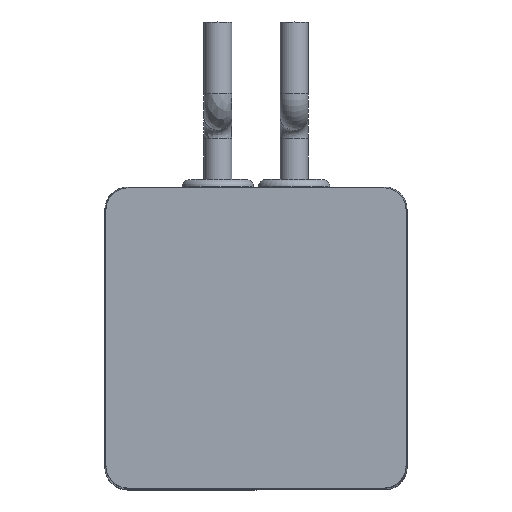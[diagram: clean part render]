
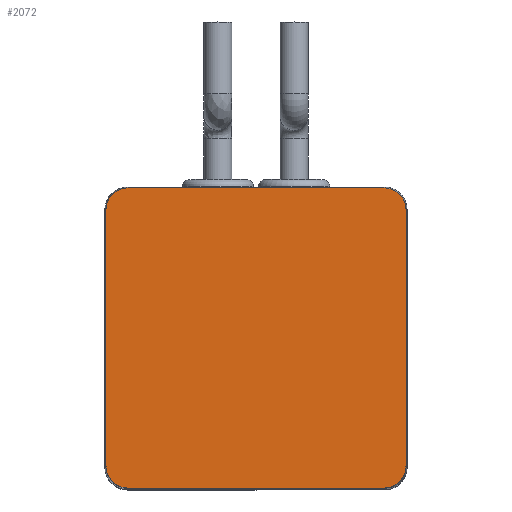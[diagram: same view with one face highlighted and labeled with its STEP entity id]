
A CAD part, top view. The second image highlights one B-rep face of the part: STEP entity #2072.
In plain terms, the highlighted planar face has unit normal (0, 0, 1).
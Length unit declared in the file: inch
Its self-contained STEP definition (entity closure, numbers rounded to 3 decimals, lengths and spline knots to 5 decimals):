
#1228=CARTESIAN_POINT('',(-0.425,1.675,6.195));
#1229=VERTEX_POINT('',#1228);
#1354=CARTESIAN_POINT('',(0.425,1.675,6.195));
#1355=VERTEX_POINT('',#1354);
#1356=CARTESIAN_POINT('',(-0.425,1.675,6.195));
#1357=DIRECTION('',(1.0,0.0,0.0));
#1358=VECTOR('',#1357,0.85);
#1359=LINE('',#1356,#1358);
#1360=EDGE_CURVE('',#1229,#1355,#1359,.T.);
#1554=CARTESIAN_POINT('',(-1.425,1.675,6.195));
#1555=VERTEX_POINT('',#1554);
#1562=CARTESIAN_POINT('',(-1.425,1.675,6.195));
#1563=DIRECTION('',(1.0,0.0,0.0));
#1564=VECTOR('',#1563,1.);
#1565=LINE('',#1562,#1564);
#1566=EDGE_CURVE('',#1555,#1229,#1565,.T.);
#1577=CARTESIAN_POINT('',(1.425,1.675,6.195));
#1578=VERTEX_POINT('',#1577);
#1579=CARTESIAN_POINT('',(0.425,1.675,6.195));
#1580=DIRECTION('',(1.0,0.0,0.0));
#1581=VECTOR('',#1580,1.);
#1582=LINE('',#1579,#1581);
#1583=EDGE_CURVE('',#1355,#1578,#1582,.T.);
#1634=CARTESIAN_POINT('',(1.675,1.425,6.195));
#1635=VERTEX_POINT('',#1634);
#1642=CARTESIAN_POINT('',(1.675,-1.425,6.195));
#1643=VERTEX_POINT('',#1642);
#1644=CARTESIAN_POINT('',(1.675,1.425,6.195));
#1645=DIRECTION('',(0.0,-1.0,0.0));
#1646=VECTOR('',#1645,2.85);
#1647=LINE('',#1644,#1646);
#1648=EDGE_CURVE('',#1635,#1643,#1647,.T.);
#1712=CARTESIAN_POINT('',(1.425,1.425,6.195));
#1713=DIRECTION('',(0.0,0.0,-1.));
#1714=DIRECTION('',(0.707,0.707,0.0));
#1715=AXIS2_PLACEMENT_3D('',#1712,#1713,#1714);
#1716=CIRCLE('',#1715,0.25);
#1717=EDGE_CURVE('',#1578,#1635,#1716,.T.);
#1801=CARTESIAN_POINT('',(-1.675,1.425,6.195));
#1802=VERTEX_POINT('',#1801);
#1809=CARTESIAN_POINT('',(-1.425,1.425,6.195));
#1810=DIRECTION('',(0.0,0.0,-1.));
#1811=DIRECTION('',(-0.707,0.707,0.0));
#1812=AXIS2_PLACEMENT_3D('',#1809,#1810,#1811);
#1813=CIRCLE('',#1812,0.25);
#1814=EDGE_CURVE('',#1802,#1555,#1813,.T.);
#1887=CARTESIAN_POINT('',(1.425,-1.675,6.195));
#1888=VERTEX_POINT('',#1887);
#1895=CARTESIAN_POINT('',(-1.425,-1.675,6.195));
#1896=VERTEX_POINT('',#1895);
#1897=CARTESIAN_POINT('',(1.425,-1.675,6.195));
#1898=DIRECTION('',(-1.0,0.0,0.0));
#1899=VECTOR('',#1898,2.85);
#1900=LINE('',#1897,#1899);
#1901=EDGE_CURVE('',#1888,#1896,#1900,.T.);
#1919=CARTESIAN_POINT('',(1.425,-1.425,6.195));
#1920=DIRECTION('',(0.0,0.0,-1.));
#1921=DIRECTION('',(0.707,-0.707,0.0));
#1922=AXIS2_PLACEMENT_3D('',#1919,#1920,#1921);
#1923=CIRCLE('',#1922,0.25);
#1924=EDGE_CURVE('',#1643,#1888,#1923,.T.);
#2031=CARTESIAN_POINT('',(-1.675,-1.425,6.195));
#2032=VERTEX_POINT('',#2031);
#2039=CARTESIAN_POINT('',(-1.675,-1.425,6.195));
#2040=DIRECTION('',(0.0,1.0,0.0));
#2041=VECTOR('',#2040,2.85);
#2042=LINE('',#2039,#2041);
#2043=EDGE_CURVE('',#2032,#1802,#2042,.T.);
#2049=CARTESIAN_POINT('',(0.,0.,6.195));
#2050=DIRECTION('',(0.0,0.0,1.0));
#2051=DIRECTION('',(1.0,0.0,0.0));
#2052=AXIS2_PLACEMENT_3D('',#2049,#2050,#2051);
#2053=PLANE('',#2052);
#2054=CARTESIAN_POINT('',(-1.425,-1.425,6.195));
#2055=DIRECTION('',(0.0,0.0,-1.));
#2056=DIRECTION('',(-0.707,-0.707,0.0));
#2057=AXIS2_PLACEMENT_3D('',#2054,#2055,#2056);
#2058=CIRCLE('',#2057,0.25);
#2059=EDGE_CURVE('',#1896,#2032,#2058,.T.);
#2060=ORIENTED_EDGE('',*,*,#2059,.F.);
#2061=ORIENTED_EDGE('',*,*,#1901,.F.);
#2062=ORIENTED_EDGE('',*,*,#1924,.F.);
#2063=ORIENTED_EDGE('',*,*,#1648,.F.);
#2064=ORIENTED_EDGE('',*,*,#1717,.F.);
#2065=ORIENTED_EDGE('',*,*,#1583,.F.);
#2066=ORIENTED_EDGE('',*,*,#1360,.F.);
#2067=ORIENTED_EDGE('',*,*,#1566,.F.);
#2068=ORIENTED_EDGE('',*,*,#1814,.F.);
#2069=ORIENTED_EDGE('',*,*,#2043,.F.);
#2070=EDGE_LOOP('',(#2060,#2061,#2062,#2063,#2064,#2065,#2066,#2067,#2068,#2069));
#2071=FACE_OUTER_BOUND('',#2070,.T.);
#2072=ADVANCED_FACE('',(#2071),#2053,.T.);
